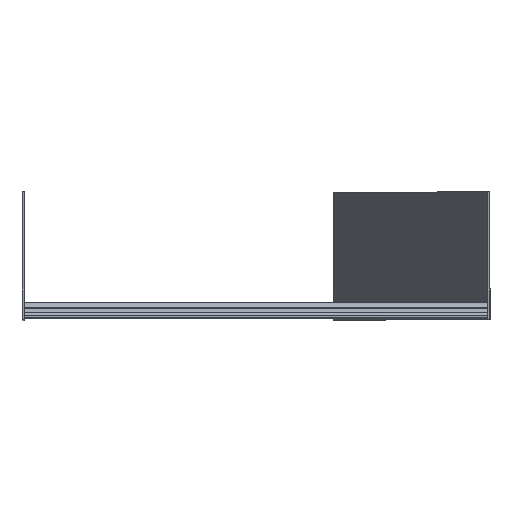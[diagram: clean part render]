
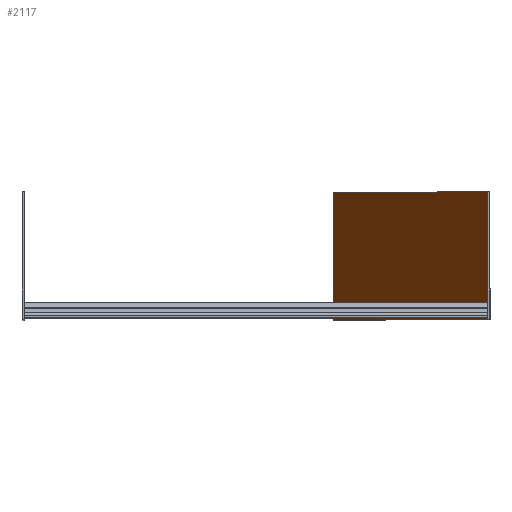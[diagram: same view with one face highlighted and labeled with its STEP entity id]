
A CAD part, top view. The second image highlights one B-rep face of the part: STEP entity #2117.
In plain terms, the highlighted planar face has unit normal (-0.881, 0, 0.472).
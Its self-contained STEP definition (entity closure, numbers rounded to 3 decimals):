
#248 = CARTESIAN_POINT ( 'NONE',  ( 300., 0., 0. ) ) ;
#371 = EDGE_CURVE ( 'NONE', #9448, #3791, #8015, .T. ) ;
#491 = CARTESIAN_POINT ( 'NONE',  ( 150.415, 0., -279.226 ) ) ;
#1087 = VECTOR ( 'NONE', #4930, 1000. ) ;
#1133 = CARTESIAN_POINT ( 'NONE',  ( 150.415, 0., -279.226 ) ) ;
#1199 = DIRECTION ( 'NONE',  ( 0., 1., 0. ) ) ;
#1339 = CARTESIAN_POINT ( 'NONE',  ( 300., 124., 0. ) ) ;
#1584 = CARTESIAN_POINT ( 'NONE',  ( 299.822, 0., -0.332 ) ) ;
#1642 = AXIS2_PLACEMENT_3D ( 'NONE', #1339, #4161, #7236 ) ;
#2117 = ADVANCED_FACE ( 'NONE', ( #8697 ), #4916, .T. ) ;
#2363 = CARTESIAN_POINT ( 'NONE',  ( 299.822, 124., -0.332 ) ) ;
#2532 = ORIENTED_EDGE ( 'NONE', *, *, #371, .F. ) ;
#2861 = LINE ( 'NONE', #9754, #1087 ) ;
#3348 = LINE ( 'NONE', #9597, #5921 ) ;
#3478 = ORIENTED_EDGE ( 'NONE', *, *, #6360, .F. ) ;
#3631 = EDGE_CURVE ( 'NONE', #8074, #3791, #2861, .T. ) ;
#3791 = VERTEX_POINT ( 'NONE', #8472 ) ;
#3800 = VERTEX_POINT ( 'NONE', #1584 ) ;
#4040 = DIRECTION ( 'NONE',  ( -0.472, 0., -0.881 ) ) ;
#4161 = DIRECTION ( 'NONE',  ( -0.881, 0., 0.472 ) ) ;
#4313 = VECTOR ( 'NONE', #4040, 1000. ) ;
#4897 = DIRECTION ( 'NONE',  ( 0., 1., 0. ) ) ;
#4916 = PLANE ( 'NONE',  #1642 ) ;
#4930 = DIRECTION ( 'NONE',  ( -0.472, 0., -0.881 ) ) ;
#5761 = ORIENTED_EDGE ( 'NONE', *, *, #7512, .T. ) ;
#5921 = VECTOR ( 'NONE', #1199, 1000. ) ;
#6360 = EDGE_CURVE ( 'NONE', #3800, #9448, #7765, .T. ) ;
#6581 = ORIENTED_EDGE ( 'NONE', *, *, #3631, .T. ) ;
#6582 = EDGE_LOOP ( 'NONE', ( #2532, #3478, #5761, #6581 ) ) ;
#7236 = DIRECTION ( 'NONE',  ( 0.472, 0., 0.881 ) ) ;
#7512 = EDGE_CURVE ( 'NONE', #3800, #8074, #3348, .T. ) ;
#7765 = LINE ( 'NONE', #248, #4313 ) ;
#8015 = LINE ( 'NONE', #1133, #9817 ) ;
#8074 = VERTEX_POINT ( 'NONE', #2363 ) ;
#8472 = CARTESIAN_POINT ( 'NONE',  ( 150.415, 124., -279.226 ) ) ;
#8697 = FACE_OUTER_BOUND ( 'NONE', #6582, .T. ) ;
#9448 = VERTEX_POINT ( 'NONE', #491 ) ;
#9597 = CARTESIAN_POINT ( 'NONE',  ( 299.822, 0., -0.332 ) ) ;
#9754 = CARTESIAN_POINT ( 'NONE',  ( 300., 124., 0. ) ) ;
#9817 = VECTOR ( 'NONE', #4897, 1000. ) ;
